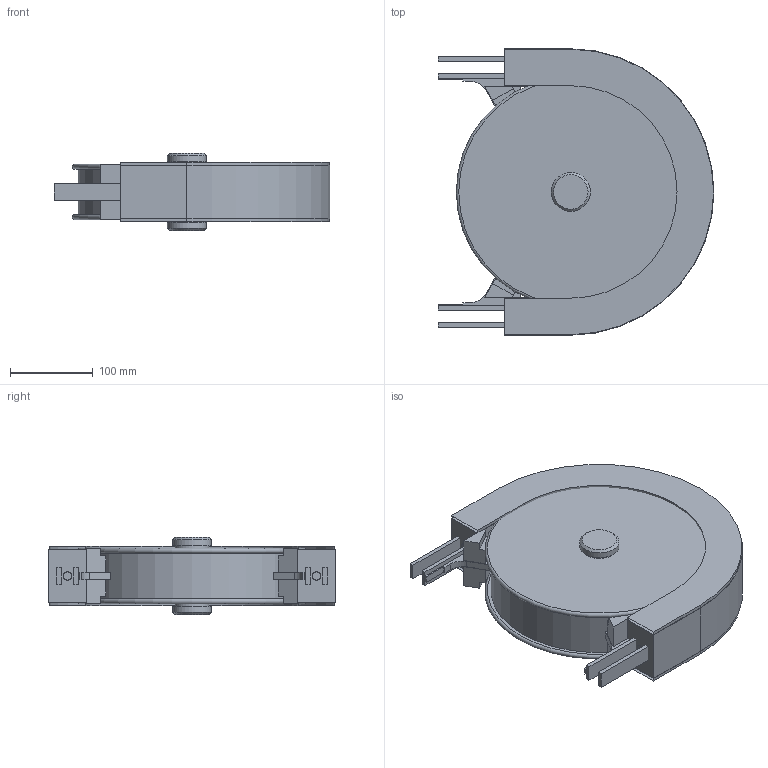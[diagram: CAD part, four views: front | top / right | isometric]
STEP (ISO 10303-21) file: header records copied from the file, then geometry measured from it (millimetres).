
FILE_DESCRIPTION(/* description */ ('Bogenrad 180°'),/* implementation_level */ '2;1');
FILE_NAME(/* name */ 'T:\vdz0\Step Daten Website\modulflex FS-System\Bogenräder\FSBH180R150A_43619.stp',/* time_stamp */ '2024-08-20T15:30:00+02:00',/* author */ ('lzb0'),/* organization */ ('modular automation GmbH'),/* preprocessor_version */ 'ST-DEVELOPER v18.1',/* originating_system */ 'Autodesk Inventor 2021',/* authorisation */ '');
FILE_SCHEMA (('AUTOMOTIVE_DESIGN { 1 0 10303 214 3 1 1 }'));
Length unit declared in the file: millimetre
Products named in the file (1): FSBH 180R150 A
Bounding box: 332.5 x 345 x 93 mm (x, y, z)
Volume: 5683623.8 mm3; surface area: 506310.8 mm2
Topology: 8 solids, 12 shells, 123 faces, 289 edges, 192 vertices
Faces by surface type: plane 104, cylinder 15, cone 2, torus 2
Full cylindrical faces by diameter (mm): 10 x2, 42 x2, 47 x2, 262 x1
Entity records: 3554 total; most frequent: CARTESIAN_POINT 605, DIRECTION 575, ORIENTED_EDGE 558, EDGE_CURVE 289, LINE 251, VECTOR 251, VERTEX_POINT 192, AXIS2_PLACEMENT_3D 162
